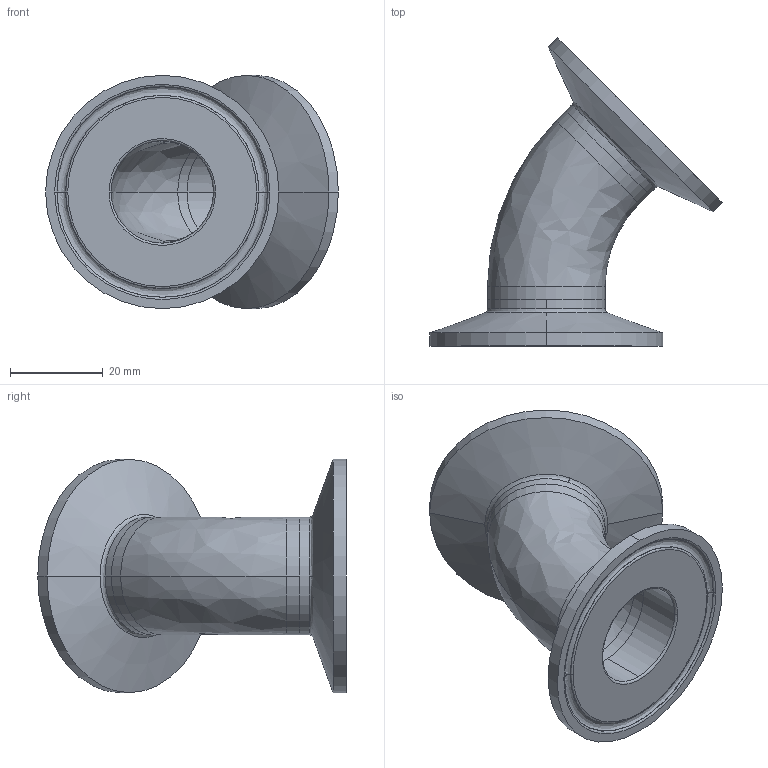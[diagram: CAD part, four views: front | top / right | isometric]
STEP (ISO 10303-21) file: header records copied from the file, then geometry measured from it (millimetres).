
FILE_DESCRIPTION (( 'STEP AP214' ), '1' );
FILE_NAME ('TEG2K6L1.0-...STEP', '2016-05-22T07:31:39', ( 'eran' ), ( '' ), 'SwSTEP 2.0', 'SolidWorks 2016', '' );
FILE_SCHEMA (( 'AUTOMOTIVE_DESIGN' ));
Length unit declared in the file: millimetre
Products named in the file (1): TEG2K6L1.0-..
Bounding box: 63.24 x 66.64 x 50.39 mm (x, y, z)
Volume: 20984 mm3; surface area: 15002.3 mm2
Topology: 3 solids, 3 shells, 64 faces, 156 edges, 100 vertices
Faces by surface type: bspline 24, cylinder 20, cone 12, plane 8
Entity records: 3040 total; most frequent: CARTESIAN_POINT 1485, DIRECTION 338, ORIENTED_EDGE 312, EDGE_CURVE 156, AXIS2_PLACEMENT_3D 153, CIRCLE 112, VERTEX_POINT 100, EDGE_LOOP 72
